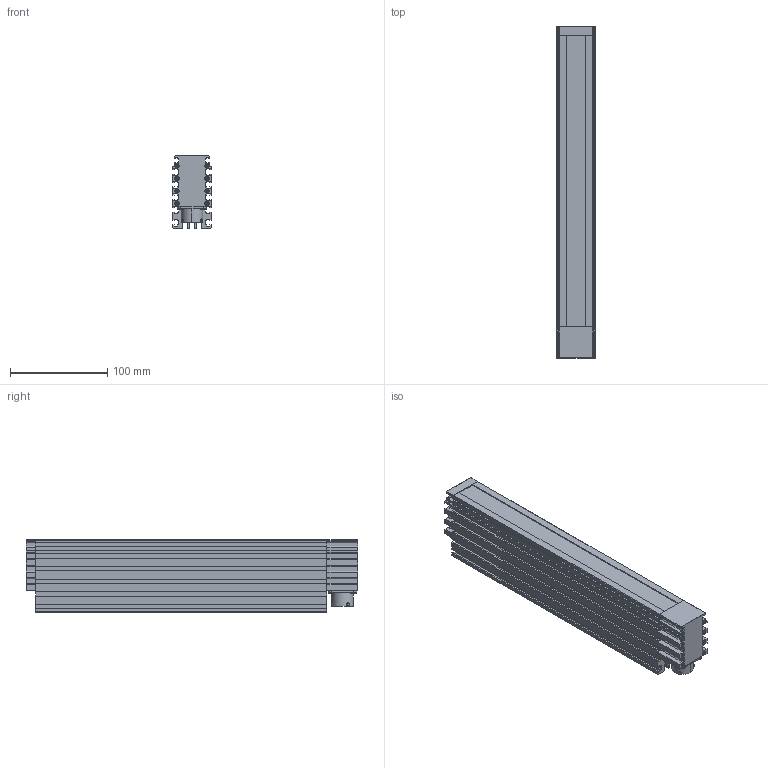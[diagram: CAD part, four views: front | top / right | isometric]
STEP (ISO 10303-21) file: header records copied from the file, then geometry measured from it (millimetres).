
FILE_DESCRIPTION (( 'STEP AP203' ), '1' );
FILE_NAME ('VLN (L_D_X)-300W _ Drawing _ L1256A (L1271A_L1287A_L1302A)-A00101.STEP', '2024-06-24T05:14:58', ( '' ), ( '' ), 'SwSTEP 2.0', 'SolidWorks 2020', '' );
FILE_SCHEMA (( 'CONFIG_CONTROL_DESIGN' ));
Length unit declared in the file: millimetre
Products named in the file (8): TMVLN0100D301A _ VLN 0100 主體 _ STEP  用; VLN-100W _ TMVLN0100D303A _ VLN 側蓋 _ L1254A-M00301 _ STEP 用; VLN-100W _ TMVLN0100D304A _ VLN ｳsｱｵｾｹｺﾝｰｼｻ\ _ L1254A-M00401_ STEP･ﾎ; VLN (L_D_X)-300W _ Drawing _ L1256A (L1271A_L1287A_L1302A)-A00101; M2 X 12 柱頭 內六角 螺絲; Nanaboshi NAW-202-RF 板裝連接器 + 防水墊; M3 X 6 扁頭 螺絲; M2 X 35 柱頭 內六角 螺絲
Assembly tree (24 placements, depth 2):
  VLN (L_D_X)-300W _ Drawing _ L1256A (L1271A_L1287A_L1302A)-A00101
    TMVLN0100D301A _ VLN 0100 主體 _ STEP  用
    VLN-100W _ TMVLN0100D303A _ VLN 側蓋 _ L1254A-M00301 _ STEP 用
    VLN-100W _ TMVLN0100D304A _ VLN ｳsｱｵｾｹｺﾝｰｼｻ\ _ L1254A-M00401_ STEP･ﾎ
    M2 X 12 柱頭 內六角 螺絲  x8
    M2 X 35 柱頭 內六角 螺絲  x8
    M3 X 6 扁頭 螺絲  x4
    Nanaboshi NAW-202-RF 板裝連接器 + 防水墊
Bounding box: 40 x 342 x 75 mm (x, y, z)
Volume: 759033.5 mm3; surface area: 194529.1 mm2
Topology: 24 solids, 24 shells, 1158 faces, 2741 edges, 1722 vertices
Faces by surface type: plane 594, cylinder 372, torus 119, cone 48, bspline 21, sphere 4
Entity records: 26874 total; most frequent: CARTESIAN_POINT 6179, ORIENTED_EDGE 4050, DIRECTION 3981, EDGE_CURVE 2025, LINE 1375, VECTOR 1375, AXIS2_PLACEMENT_3D 1303, VERTEX_POINT 1280
